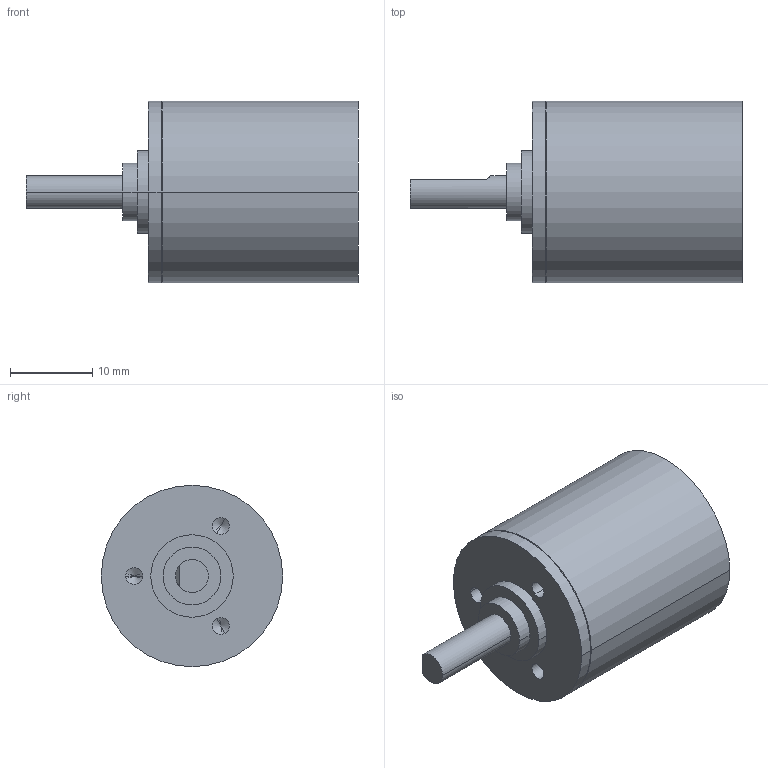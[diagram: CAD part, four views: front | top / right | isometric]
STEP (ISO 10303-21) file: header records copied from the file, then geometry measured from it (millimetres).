
FILE_DESCRIPTION((''),'2;1');
FILE_NAME('3562247','2016-10-04T',('mmagvisi'),(''),'CREO PARAMETRIC BY PTC INC, 2016050','CREO PARAMETRIC BY PTC INC, 2016050','');
FILE_SCHEMA(('CONFIG_CONTROL_DESIGN'));
Length unit declared in the file: millimetre
Products named in the file (1): 3562247
Bounding box: 40.25 x 22 x 22 mm (x, y, z)
Volume: 9907.5 mm3; surface area: 2862.4 mm2
Topology: 1 solids, 1 shells, 33 faces, 72 edges, 41 vertices
Faces by surface type: cylinder 16, cone 10, plane 7
Entity records: 1178 total; most frequent: DIRECTION 164, CARTESIAN_POINT 147, ORIENTED_EDGE 132, AXIS2_PLACEMENT_3D 67, PRESENTATION_STYLE_ASSIGNMENT 67, STYLED_ITEM 67, CURVE_STYLE 66, EDGE_CURVE 66
